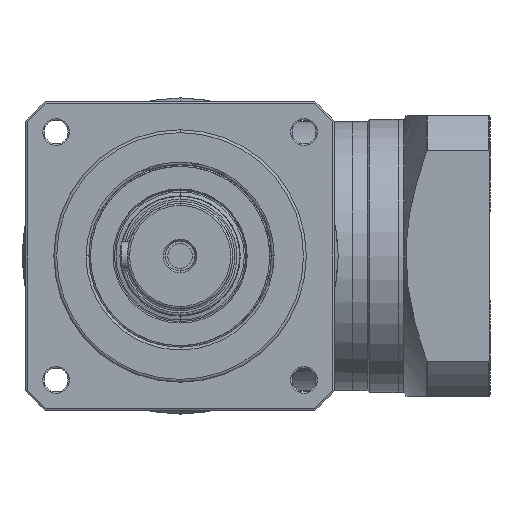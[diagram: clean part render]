
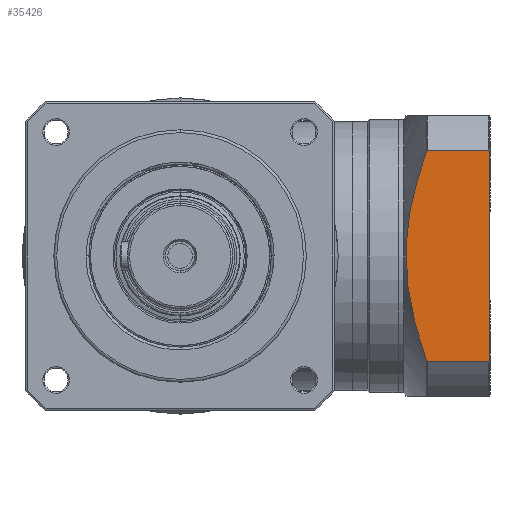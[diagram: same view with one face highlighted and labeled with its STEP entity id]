
A CAD part, left-side view. The second image highlights one B-rep face of the part: STEP entity #35426.
In plain terms, the highlighted planar face has unit normal (-1, 0, 0) as drawn and (0, -1, 0) by its records, which use the part's own axes.
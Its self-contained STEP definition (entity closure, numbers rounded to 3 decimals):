
#106 = CARTESIAN_POINT ( 'NONE',  ( -45.233, -100., 74.351 ) ) ;
#111 = CARTESIAN_POINT ( 'NONE',  ( 0., -100., -73.321 ) ) ;
#448 = CARTESIAN_POINT ( 'NONE',  ( -58.177, -100., -25.589 ) ) ;
#1072 = CARTESIAN_POINT ( 'NONE',  ( -1., -100., -75. ) ) ;
#1774 = CARTESIAN_POINT ( 'NONE',  ( -45.176, -100., -74.509 ) ) ;
#1832 = VERTEX_POINT ( 'NONE', #4677 ) ;
#2084 = ORIENTED_EDGE ( 'NONE', *, *, #9930, .T. ) ;
#3816 = CARTESIAN_POINT ( 'NONE',  ( -52.986, -100., 50.032 ) ) ;
#4151 = CARTESIAN_POINT ( 'NONE',  ( -45.233, -100., -74.351 ) ) ;
#4343 = CARTESIAN_POINT ( 'NONE',  ( -0.33, -100., -73.879 ) ) ;
#4677 = CARTESIAN_POINT ( 'NONE',  ( -1., -100., 75. ) ) ;
#4728 = B_SPLINE_CURVE_WITH_KNOTS ( 'NONE', 3,
 ( #106, #24496, #12352, #3816, #11837, #32268, #31919, #20071, #19728, #47971, #19902, #32605, #44419, #48320, #23785, #448, #8512, #36675, #12519, #40021, #16226, #15704 ),
 .UNSPECIFIED., .F., .F.,
 ( 4, 2, 2, 2, 2, 2, 2, 2, 2, 2, 4 ),
 ( 0., 0.019, 0.038, 0.057, 0.067, 0.071, 0.076, 0.095, 0.114, 0.133, 0.153 ),
 .UNSPECIFIED. ) ;
#5132 = DIRECTION ( 'NONE',  ( 0., 0., -1. ) ) ;
#5240 = VERTEX_POINT ( 'NONE', #37226 ) ;
#5831 = CARTESIAN_POINT ( 'NONE',  ( -45.233, -100., -74.351 ) ) ;
#5873 = B_SPLINE_CURVE_WITH_KNOTS ( 'NONE', 3,
 ( #111, #4343, #8177, #20769 ),
 .UNSPECIFIED., .F., .F.,
 ( 4, 4 ),
 ( 0., 1. ),
 .UNSPECIFIED. ) ;
#6365 = CARTESIAN_POINT ( 'NONE',  ( -45.205, -100., 74.43 ) ) ;
#6883 = CARTESIAN_POINT ( 'NONE',  ( -44.547, -100., 75. ) ) ;
#7086 = EDGE_CURVE ( 'NONE', #32495, #8042, #5873, .T. ) ;
#7568 = VERTEX_POINT ( 'NONE', #11080 ) ;
#7634 = LINE ( 'NONE', #14918, #14498 ) ;
#7981 = EDGE_CURVE ( 'NONE', #7568, #32495, #27344, .T. ) ;
#8042 = VERTEX_POINT ( 'NONE', #1072 ) ;
#8177 = CARTESIAN_POINT ( 'NONE',  ( -0.663, -100., -74.439 ) ) ;
#8477 = VECTOR ( 'NONE', #39583, 1000. ) ;
#8512 = CARTESIAN_POINT ( 'NONE',  ( -57.137, -100., -31.786 ) ) ;
#9669 = ORIENTED_EDGE ( 'NONE', *, *, #7981, .F. ) ;
#9930 = EDGE_CURVE ( 'NONE', #1832, #5240, #19128, .T. ) ;
#10004 = CARTESIAN_POINT ( 'NONE',  ( -44.862, -100., -74.899 ) ) ;
#10359 = CARTESIAN_POINT ( 'NONE',  ( -45.097, -100., -74.66 ) ) ;
#11080 = CARTESIAN_POINT ( 'NONE',  ( 0., -100., 73.321 ) ) ;
#11837 = CARTESIAN_POINT ( 'NONE',  ( -54.572, -100., 43.874 ) ) ;
#11878 = CARTESIAN_POINT ( 'NONE',  ( -0.663, -100., 74.438 ) ) ;
#12117 = FACE_OUTER_BOUND ( 'NONE', #26324, .T. ) ;
#12352 = CARTESIAN_POINT ( 'NONE',  ( -49.396, -100., 62.254 ) ) ;
#12519 = CARTESIAN_POINT ( 'NONE',  ( -52.942, -100., -50.188 ) ) ;
#12897 = CARTESIAN_POINT ( 'NONE',  ( -65.5, -100., 100. ) ) ;
#13007 = EDGE_CURVE ( 'NONE', #15044, #8042, #7634, .T. ) ;
#13588 = ORIENTED_EDGE ( 'NONE', *, *, #43551, .F. ) ;
#14402 = ORIENTED_EDGE ( 'NONE', *, *, #7086, .F. ) ;
#14498 = VECTOR ( 'NONE', #35363, 1000. ) ;
#14713 = VECTOR ( 'NONE', #5132, 1000. ) ;
#14918 = CARTESIAN_POINT ( 'NONE',  ( -65.5, -100., -75. ) ) ;
#15044 = VERTEX_POINT ( 'NONE', #32530 ) ;
#15704 = CARTESIAN_POINT ( 'NONE',  ( -45.233, -100., -74.351 ) ) ;
#16226 = CARTESIAN_POINT ( 'NONE',  ( -47.382, -100., -68.349 ) ) ;
#16552 = VERTEX_POINT ( 'NONE', #41494 ) ;
#17130 = DIRECTION ( 'NONE',  ( 0., 0., -1. ) ) ;
#17381 = CARTESIAN_POINT ( 'NONE',  ( 0., -100., 0. ) ) ;
#18778 = CARTESIAN_POINT ( 'NONE',  ( -44.928, -100., 74.844 ) ) ;
#19128 = LINE ( 'NONE', #26931, #8477 ) ;
#19728 = CARTESIAN_POINT ( 'NONE',  ( -59.568, -100., 12.44 ) ) ;
#19902 = CARTESIAN_POINT ( 'NONE',  ( -59.899, -100., 6.009 ) ) ;
#20071 = CARTESIAN_POINT ( 'NONE',  ( -59.3, -100., 15.635 ) ) ;
#20117 = CARTESIAN_POINT ( 'NONE',  ( 0., -100., 73.321 ) ) ;
#20689 = ORIENTED_EDGE ( 'NONE', *, *, #48258, .T. ) ;
#20769 = CARTESIAN_POINT ( 'NONE',  ( -1., -100., -75. ) ) ;
#21926 = CARTESIAN_POINT ( 'NONE',  ( -44.928, -100., -74.844 ) ) ;
#22113 = CARTESIAN_POINT ( 'NONE',  ( -44.714, -100., -74.977 ) ) ;
#23013 = CARTESIAN_POINT ( 'NONE',  ( -45.089, -100., 74.651 ) ) ;
#23247 = ORIENTED_EDGE ( 'NONE', *, *, #13007, .T. ) ;
#23785 = CARTESIAN_POINT ( 'NONE',  ( -59.601, -100., -13.079 ) ) ;
#24496 = CARTESIAN_POINT ( 'NONE',  ( -47.392, -100., 68.32 ) ) ;
#26324 = EDGE_LOOP ( 'NONE', ( #32843, #13588, #23247, #14402, #9669, #20689, #2084, #45829 ) ) ;
#26931 = CARTESIAN_POINT ( 'NONE',  ( -65.5, -100., 75. ) ) ;
#26933 = CARTESIAN_POINT ( 'NONE',  ( -44.715, -100., 74.977 ) ) ;
#27344 = LINE ( 'NONE', #17381, #14713 ) ;
#27674 = EDGE_CURVE ( 'NONE', #16552, #32856, #4728, .T. ) ;
#30091 = B_SPLINE_CURVE_WITH_KNOTS ( 'NONE', 3,
 ( #20117, #35840, #11878, #48192 ),
 .UNSPECIFIED., .F., .F.,
 ( 4, 4 ),
 ( 0., 1. ),
 .UNSPECIFIED. ) ;
#31919 = CARTESIAN_POINT ( 'NONE',  ( -58.243, -100., 25.162 ) ) ;
#32268 = CARTESIAN_POINT ( 'NONE',  ( -57.201, -100., 31.44 ) ) ;
#32495 = VERTEX_POINT ( 'NONE', #42128 ) ;
#32530 = CARTESIAN_POINT ( 'NONE',  ( -44.547, -100., -75. ) ) ;
#32605 = CARTESIAN_POINT ( 'NONE',  ( -59.984, -100., 2.804 ) ) ;
#32843 = ORIENTED_EDGE ( 'NONE', *, *, #27674, .T. ) ;
#32856 = VERTEX_POINT ( 'NONE', #4151 ) ;
#34131 = CARTESIAN_POINT ( 'NONE',  ( -44.632, -100., -75. ) ) ;
#34306 = CARTESIAN_POINT ( 'NONE',  ( -44.547, -100., -75. ) ) ;
#34392 = EDGE_CURVE ( 'NONE', #16552, #5240, #49893, .T. ) ;
#35192 = CARTESIAN_POINT ( 'NONE',  ( -45.233, -100., 74.351 ) ) ;
#35363 = DIRECTION ( 'NONE',  ( 1., 0., 0. ) ) ;
#35426 = ADVANCED_FACE ( 'NONE', ( #12117 ), #37214, .T. ) ;
#35840 = CARTESIAN_POINT ( 'NONE',  ( -0.33, -100., 73.879 ) ) ;
#36675 = CARTESIAN_POINT ( 'NONE',  ( -54.519, -100., -44.085 ) ) ;
#37214 = PLANE ( 'NONE',  #51159 ) ;
#37226 = CARTESIAN_POINT ( 'NONE',  ( -44.547, -100., 75. ) ) ;
#38728 = CARTESIAN_POINT ( 'NONE',  ( -45.171, -100., 74.506 ) ) ;
#39242 = CARTESIAN_POINT ( 'NONE',  ( -44.862, -100., 74.899 ) ) ;
#39583 = DIRECTION ( 'NONE',  ( -1., 0., 0. ) ) ;
#40021 = CARTESIAN_POINT ( 'NONE',  ( -49.374, -100., -62.32 ) ) ;
#40584 = DIRECTION ( 'NONE',  ( 0., -1., 0. ) ) ;
#41494 = CARTESIAN_POINT ( 'NONE',  ( -45.233, -100., 74.351 ) ) ;
#42128 = CARTESIAN_POINT ( 'NONE',  ( 0., -100., -73.321 ) ) ;
#42965 = CARTESIAN_POINT ( 'NONE',  ( -45.041, -100., 74.721 ) ) ;
#43308 = CARTESIAN_POINT ( 'NONE',  ( -44.632, -100., 75. ) ) ;
#43548 = B_SPLINE_CURVE_WITH_KNOTS ( 'NONE', 3,
 ( #34306, #34131, #22113, #10004, #21926, #10359, #1774, #5831 ),
 .UNSPECIFIED., .F., .F.,
 ( 4, 2, 2, 4 ),
 ( 0., 0., 0., 0.001 ),
 .UNSPECIFIED. ) ;
#43551 = EDGE_CURVE ( 'NONE', #15044, #32856, #43548, .T. ) ;
#44419 = CARTESIAN_POINT ( 'NONE',  ( -60.003, -100., 1.206 ) ) ;
#45829 = ORIENTED_EDGE ( 'NONE', *, *, #34392, .F. ) ;
#47971 = CARTESIAN_POINT ( 'NONE',  ( -59.834, -100., 7.618 ) ) ;
#48192 = CARTESIAN_POINT ( 'NONE',  ( -1., -100., 75. ) ) ;
#48258 = EDGE_CURVE ( 'NONE', #7568, #1832, #30091, .T. ) ;
#48320 = CARTESIAN_POINT ( 'NONE',  ( -59.985, -100., -6.766 ) ) ;
#49893 = B_SPLINE_CURVE_WITH_KNOTS ( 'NONE', 3,
 ( #35192, #6365, #38728, #23013, #42965, #18778, #39242, #26933, #43308, #6883 ),
 .UNSPECIFIED., .F., .F.,
 ( 4, 2, 2, 2, 4 ),
 ( 0., 0., 0., 0.001, 0.001 ),
 .UNSPECIFIED. ) ;
#51159 = AXIS2_PLACEMENT_3D ( 'NONE', #12897, #40584, #17130 ) ;
